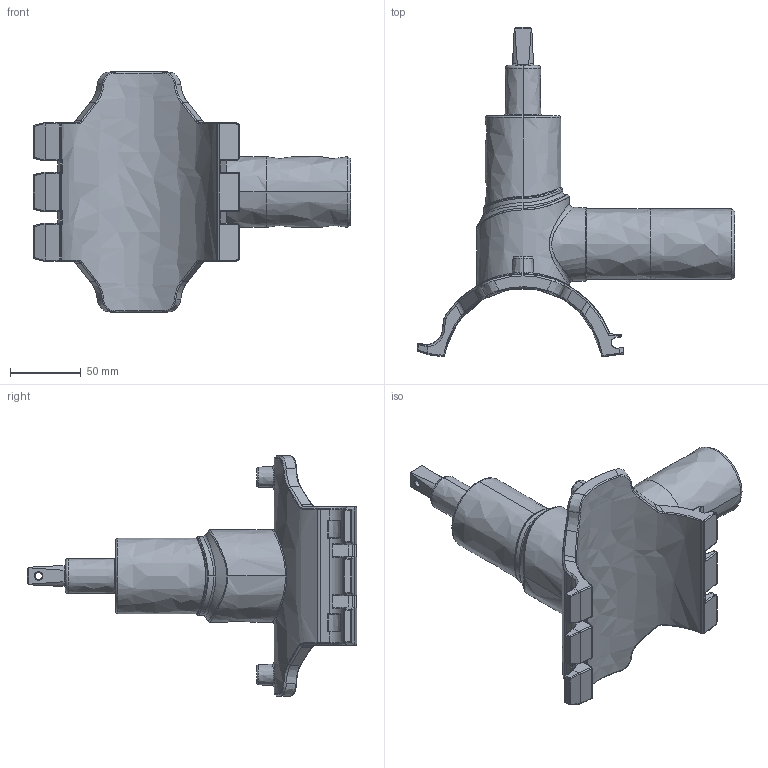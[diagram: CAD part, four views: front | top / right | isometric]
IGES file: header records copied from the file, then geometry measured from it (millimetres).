
Start section:  PTC IGES file: dav2_d110_50_01.igs
Global section: file name: dav2_d110_50_01.igs; native system: Creo Parametric by PTC Inc.; preprocessor: 2019030; author: mikulicp; organization: Unknown; date: 20200430.133206; units: millimetre
Bounding box: 224.95 x 233.26 x 170 mm (x, y, z)
Surface area: 111575.6 mm2 (no closed solid volume)
Topology: 0 solids, 0 shells, 573 faces, 2778 edges, 2772 vertices
Faces by surface type: bspline 573
